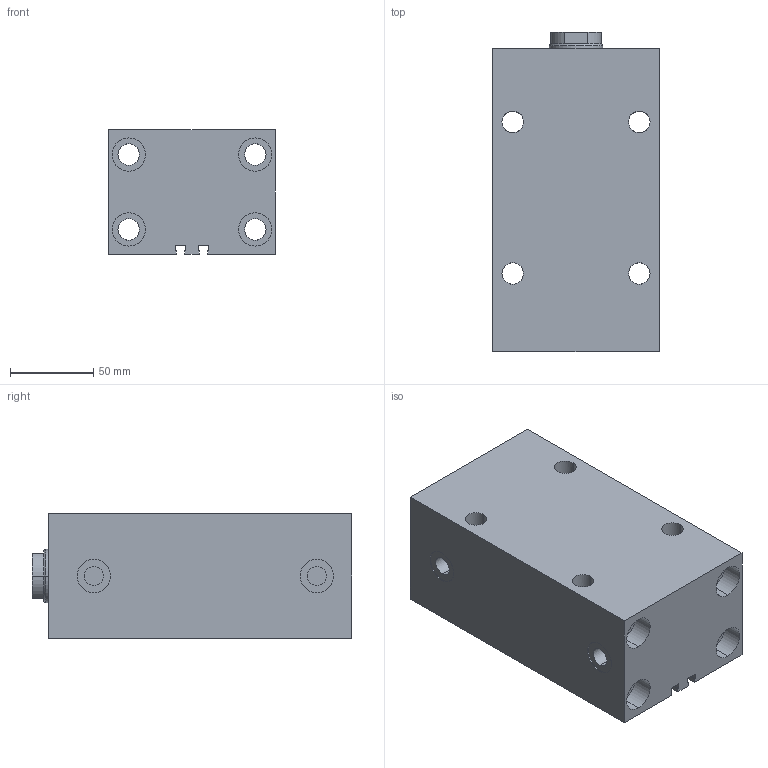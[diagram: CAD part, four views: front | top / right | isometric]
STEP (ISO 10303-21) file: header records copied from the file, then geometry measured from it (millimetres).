
FILE_DESCRIPTION (( 'STEP AP203' ), '1' );
FILE_NAME ('GERMA_Blockzylinder_700-050-100.STEP', '2016-07-23T13:10:49', ( '' ), ( '' ), 'SwSTEP 2.0', 'SolidWorks 2015', '' );
FILE_SCHEMA (( 'CONFIG_CONTROL_DESIGN' ));
Length unit declared in the file: millimetre
Products named in the file (3): GH-700-050_GH-700-050-100; Kolben_MT 70x-050_Kolben_MT DU.50-Hub100-IG; GERMA_Blockzylinder_700-050-100
Assembly tree (2 placements, depth 2):
  GERMA_Blockzylinder_700-050-100
    GH-700-050_GH-700-050-100
    Kolben_MT 70x-050_Kolben_MT DU.50-Hub100-IG
Bounding box: 100 x 192 x 75 mm (x, y, z)
Volume: 1087826.3 mm3; surface area: 173767 mm2
Topology: 2 solids, 2 shells, 156 faces, 382 edges, 230 vertices
Faces by surface type: cylinder 95, plane 47, cone 14
Entity records: 4870 total; most frequent: CARTESIAN_POINT 959, DIRECTION 771, ORIENTED_EDGE 752, EDGE_CURVE 376, AXIS2_PLACEMENT_3D 298, VERTEX_POINT 230, EDGE_LOOP 194, LINE 175
